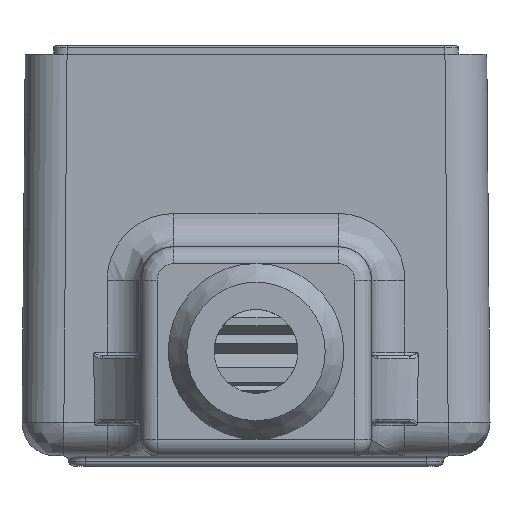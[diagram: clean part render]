
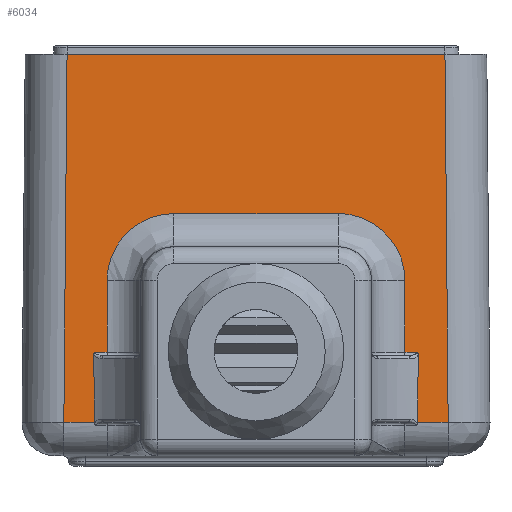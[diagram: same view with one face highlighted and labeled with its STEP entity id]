
A CAD part, front view. The second image highlights one B-rep face of the part: STEP entity #6034.
In plain terms, the highlighted planar face has unit normal (0, -1, 0.009).
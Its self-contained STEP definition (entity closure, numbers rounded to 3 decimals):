
#1680=CARTESIAN_POINT('',(-9.698,-13.947,6.037));
#1681=VERTEX_POINT('',#1680);
#1691=CARTESIAN_POINT('',(-9.697,-13.948,6.));
#1692=VERTEX_POINT('',#1691);
#1693=CARTESIAN_POINT('',(-9.697,-13.948,6.));
#1694=CARTESIAN_POINT('',(-9.697,-13.947,6.019));
#1695=CARTESIAN_POINT('',(-9.698,-13.947,6.037));
#1703=(BOUNDED_CURVE()B_SPLINE_CURVE(2,(#1693,#1694,#1695),.UNSPECIFIED.,.F.,.U.)B_SPLINE_CURVE_WITH_KNOTS((3,3),(0.2,0.204),.UNSPECIFIED.)CURVE()GEOMETRIC_REPRESENTATION_ITEM()RATIONAL_B_SPLINE_CURVE((1.,1.,1.))REPRESENTATION_ITEM(''));
#1704=EDGE_CURVE('',#1692,#1681,#1703,.T.);
#1706=CARTESIAN_POINT('',(-9.645,-13.982,2.017));
#1707=VERTEX_POINT('',#1706);
#1708=CARTESIAN_POINT('',(-9.645,-13.982,2.017));
#1709=CARTESIAN_POINT('',(-9.671,-13.965,4.022));
#1710=CARTESIAN_POINT('',(-9.697,-13.948,6.));
#1718=(BOUNDED_CURVE()B_SPLINE_CURVE(2,(#1708,#1709,#1710),.UNSPECIFIED.,.F.,.U.)B_SPLINE_CURVE_WITH_KNOTS((3,3),(0.0,0.398),.UNSPECIFIED.)CURVE()GEOMETRIC_REPRESENTATION_ITEM()RATIONAL_B_SPLINE_CURVE((1.0,1.,1.0))REPRESENTATION_ITEM(''));
#1719=EDGE_CURVE('',#1707,#1692,#1718,.T.);
#1903=CARTESIAN_POINT('',(-9.64,-13.946,6.198));
#1904=VERTEX_POINT('',#1903);
#1914=CARTESIAN_POINT('',(-9.698,-13.947,6.037));
#1915=CARTESIAN_POINT('',(-9.698,-13.947,6.045));
#1916=CARTESIAN_POINT('',(-9.697,-13.947,6.053));
#1917=CARTESIAN_POINT('',(-9.695,-13.947,6.088));
#1918=CARTESIAN_POINT('',(-9.689,-13.947,6.115));
#1919=CARTESIAN_POINT('',(-9.668,-13.946,6.164));
#1920=CARTESIAN_POINT('',(-9.655,-13.946,6.182));
#1921=CARTESIAN_POINT('',(-9.64,-13.946,6.198));
#1922=CARTESIAN_POINT('',(-9.64,-13.946,6.198));
#1923=CARTESIAN_POINT('',(-9.64,-13.946,6.198));
#1924=B_SPLINE_CURVE_WITH_KNOTS('',3,(#1914,#1915,#1916,#1917,#1918,#1919,#1920,#1921,#1922,#1923),.UNSPECIFIED.,.F.,.U.,(4,2,2,2,4),(0.0,0.002,0.011,0.018,0.018),.UNSPECIFIED.);
#1925=EDGE_CURVE('',#1904,#1681,#1924,.F.);
#2055=CARTESIAN_POINT('',(-8.9,-13.946,6.198));
#2056=VERTEX_POINT('',#2055);
#2064=CARTESIAN_POINT('',(-8.9,-13.946,6.198));
#2065=DIRECTION('',(-1.0,0.0,0.0));
#2066=VECTOR('',#2065,0.74);
#2067=LINE('',#2064,#2066);
#2068=EDGE_CURVE('',#2056,#1904,#2067,.T.);
#2314=CARTESIAN_POINT('',(9.698,-13.947,6.037));
#2315=VERTEX_POINT('',#2314);
#2316=CARTESIAN_POINT('',(9.64,-13.946,6.198));
#2317=VERTEX_POINT('',#2316);
#2318=CARTESIAN_POINT('',(9.64,-13.946,6.198));
#2319=CARTESIAN_POINT('',(9.64,-13.946,6.198));
#2320=CARTESIAN_POINT('',(9.64,-13.946,6.198));
#2321=CARTESIAN_POINT('',(9.649,-13.946,6.188));
#2322=CARTESIAN_POINT('',(9.657,-13.946,6.178));
#2323=CARTESIAN_POINT('',(9.671,-13.946,6.156));
#2324=CARTESIAN_POINT('',(9.677,-13.946,6.145));
#2325=CARTESIAN_POINT('',(9.692,-13.947,6.104));
#2326=CARTESIAN_POINT('',(9.698,-13.947,6.072));
#2327=CARTESIAN_POINT('',(9.698,-13.947,6.037));
#2328=B_SPLINE_CURVE_WITH_KNOTS('',3,(#2318,#2319,#2320,#2321,#2322,#2323,#2324,#2325,#2326,#2327),.UNSPECIFIED.,.F.,.U.,(4,2,2,2,4),(0.,0.0,0.004,0.008,0.017),.UNSPECIFIED.);
#2329=EDGE_CURVE('',#2315,#2317,#2328,.F.);
#2423=CARTESIAN_POINT('',(9.645,-13.982,2.017));
#2424=VERTEX_POINT('',#2423);
#2432=CARTESIAN_POINT('',(9.697,-13.948,6.));
#2433=VERTEX_POINT('',#2432);
#2434=CARTESIAN_POINT('',(9.697,-13.948,6.));
#2435=CARTESIAN_POINT('',(9.671,-13.965,4.022));
#2436=CARTESIAN_POINT('',(9.645,-13.982,2.017));
#2444=(BOUNDED_CURVE()B_SPLINE_CURVE(2,(#2434,#2435,#2436),.UNSPECIFIED.,.F.,.U.)B_SPLINE_CURVE_WITH_KNOTS((3,3),(0.0,0.398),.UNSPECIFIED.)CURVE()GEOMETRIC_REPRESENTATION_ITEM()RATIONAL_B_SPLINE_CURVE((1.0,1.,1.0))REPRESENTATION_ITEM(''));
#2445=EDGE_CURVE('',#2433,#2424,#2444,.T.);
#2447=CARTESIAN_POINT('',(9.698,-13.947,6.037));
#2448=CARTESIAN_POINT('',(9.697,-13.947,6.019));
#2449=CARTESIAN_POINT('',(9.697,-13.948,6.));
#2457=(BOUNDED_CURVE()B_SPLINE_CURVE(2,(#2447,#2448,#2449),.UNSPECIFIED.,.F.,.U.)B_SPLINE_CURVE_WITH_KNOTS((3,3),(0.218,0.222),.UNSPECIFIED.)CURVE()GEOMETRIC_REPRESENTATION_ITEM()RATIONAL_B_SPLINE_CURVE((1.,1.,1.))REPRESENTATION_ITEM(''));
#2458=EDGE_CURVE('',#2315,#2433,#2457,.T.);
#2523=CARTESIAN_POINT('',(8.9,-13.946,6.198));
#2524=VERTEX_POINT('',#2523);
#2556=CARTESIAN_POINT('',(9.64,-13.946,6.198));
#2557=DIRECTION('',(-1.0,0.0,0.0));
#2558=VECTOR('',#2557,0.74);
#2559=LINE('',#2556,#2558);
#2560=EDGE_CURVE('',#2317,#2524,#2559,.T.);
#2899=CARTESIAN_POINT('',(-8.9,-13.909,10.483));
#2900=VERTEX_POINT('',#2899);
#2908=CARTESIAN_POINT('',(-8.9,-13.909,10.483));
#2909=DIRECTION('',(0.0,-0.009,-1.));
#2910=VECTOR('',#2909,4.284);
#2911=LINE('',#2908,#2910);
#2912=EDGE_CURVE('',#2900,#2056,#2911,.T.);
#2985=CARTESIAN_POINT('',(11.482,-13.982,2.017));
#2986=VERTEX_POINT('',#2985);
#2994=CARTESIAN_POINT('',(11.482,-13.982,2.017));
#2995=DIRECTION('',(-1.0,0.0,0.0));
#2996=VECTOR('',#2995,1.837);
#2997=LINE('',#2994,#2996);
#2998=EDGE_CURVE('',#2986,#2424,#2997,.T.);
#5784=CARTESIAN_POINT('',(-4.9,-13.874,14.483));
#5785=VERTEX_POINT('',#5784);
#5786=CARTESIAN_POINT('',(-4.9,-13.909,10.483));
#5787=DIRECTION('',(0.,-1.,0.009));
#5788=DIRECTION('',(0.,0.009,1.));
#5789=AXIS2_PLACEMENT_3D('',#5786,#5787,#5788);
#5790=ELLIPSE('',#5789,4.,4.0);
#5791=EDGE_CURVE('',#5785,#2900,#5790,.T.);
#5867=CARTESIAN_POINT('',(8.9,-13.909,10.483));
#5868=VERTEX_POINT('',#5867);
#5876=CARTESIAN_POINT('',(4.9,-13.874,14.483));
#5877=VERTEX_POINT('',#5876);
#5878=CARTESIAN_POINT('',(4.9,-13.909,10.483));
#5879=DIRECTION('',(0.,-1.,0.009));
#5880=DIRECTION('',(0.,0.009,1.));
#5881=AXIS2_PLACEMENT_3D('',#5878,#5879,#5880);
#5882=ELLIPSE('',#5881,4.,4.);
#5883=EDGE_CURVE('',#5868,#5877,#5882,.T.);
#5901=CARTESIAN_POINT('',(8.9,-13.946,6.198));
#5902=DIRECTION('',(0.0,0.009,1.));
#5903=VECTOR('',#5902,4.284);
#5904=LINE('',#5901,#5903);
#5905=EDGE_CURVE('',#2524,#5868,#5904,.T.);
#5923=CARTESIAN_POINT('',(4.9,-13.874,14.483));
#5924=DIRECTION('',(-1.0,0.0,0.0));
#5925=VECTOR('',#5924,9.8);
#5926=LINE('',#5923,#5925);
#5927=EDGE_CURVE('',#5877,#5785,#5926,.T.);
#5968=CARTESIAN_POINT('',(-11.482,-13.982,2.017));
#5969=VERTEX_POINT('',#5968);
#5970=CARTESIAN_POINT('',(-9.645,-13.982,2.017));
#5971=DIRECTION('',(-1.0,0.0,0.0));
#5972=VECTOR('',#5971,1.837);
#5973=LINE('',#5970,#5972);
#5974=EDGE_CURVE('',#1707,#5969,#5973,.T.);
#5990=CARTESIAN_POINT('',(14.0,-14.,0.0));
#5991=DIRECTION('',(0.,-1.,0.009));
#5992=DIRECTION('',(1.0,0.0,0.0));
#5993=AXIS2_PLACEMENT_3D('',#5990,#5991,#5992);
#5994=PLANE('',#5993);
#5995=ORIENTED_EDGE('',*,*,#2068,.F.);
#5996=ORIENTED_EDGE('',*,*,#2912,.F.);
#5997=ORIENTED_EDGE('',*,*,#5791,.F.);
#5998=ORIENTED_EDGE('',*,*,#5927,.F.);
#5999=ORIENTED_EDGE('',*,*,#5883,.F.);
#6000=ORIENTED_EDGE('',*,*,#5905,.F.);
#6001=ORIENTED_EDGE('',*,*,#2560,.F.);
#6002=ORIENTED_EDGE('',*,*,#2329,.F.);
#6003=ORIENTED_EDGE('',*,*,#2458,.T.);
#6004=ORIENTED_EDGE('',*,*,#2445,.T.);
#6005=ORIENTED_EDGE('',*,*,#2998,.F.);
#6006=CARTESIAN_POINT('',(11.291,-13.791,24.));
#6007=VERTEX_POINT('',#6006);
#6008=CARTESIAN_POINT('',(11.291,-13.791,24.));
#6009=DIRECTION('',(0.009,-0.009,-1.));
#6010=VECTOR('',#6009,21.984);
#6011=LINE('',#6008,#6010);
#6012=EDGE_CURVE('',#6007,#2986,#6011,.T.);
#6013=ORIENTED_EDGE('',*,*,#6012,.F.);
#6014=CARTESIAN_POINT('',(-11.291,-13.791,24.));
#6015=VERTEX_POINT('',#6014);
#6016=CARTESIAN_POINT('',(11.291,-13.791,24.));
#6017=DIRECTION('',(-1.0,0.0,0.0));
#6018=VECTOR('',#6017,22.581);
#6019=LINE('',#6016,#6018);
#6020=EDGE_CURVE('',#6007,#6015,#6019,.T.);
#6021=ORIENTED_EDGE('',*,*,#6020,.T.);
#6022=CARTESIAN_POINT('',(-11.482,-13.982,2.017));
#6023=DIRECTION('',(0.009,0.009,1.));
#6024=VECTOR('',#6023,21.984);
#6025=LINE('',#6022,#6024);
#6026=EDGE_CURVE('',#5969,#6015,#6025,.T.);
#6027=ORIENTED_EDGE('',*,*,#6026,.F.);
#6028=ORIENTED_EDGE('',*,*,#5974,.F.);
#6029=ORIENTED_EDGE('',*,*,#1719,.T.);
#6030=ORIENTED_EDGE('',*,*,#1704,.T.);
#6031=ORIENTED_EDGE('',*,*,#1925,.F.);
#6032=EDGE_LOOP('',(#5995,#5996,#5997,#5998,#5999,#6000,#6001,#6002,#6003,#6004,#6005,#6013,#6021,#6027,#6028,#6029,#6030,#6031));
#6033=FACE_OUTER_BOUND('',#6032,.T.);
#6034=ADVANCED_FACE('',(#6033),#5994,.T.);
